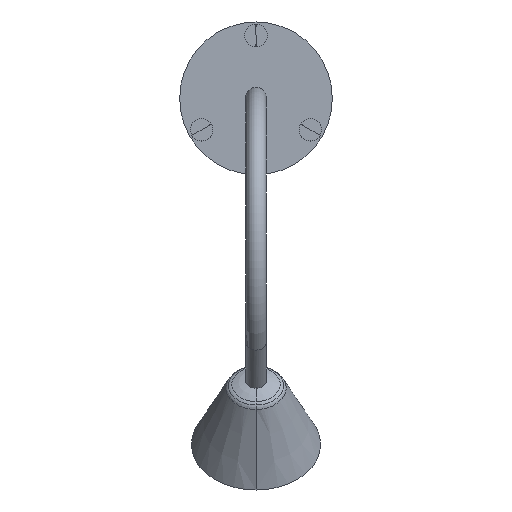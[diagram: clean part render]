
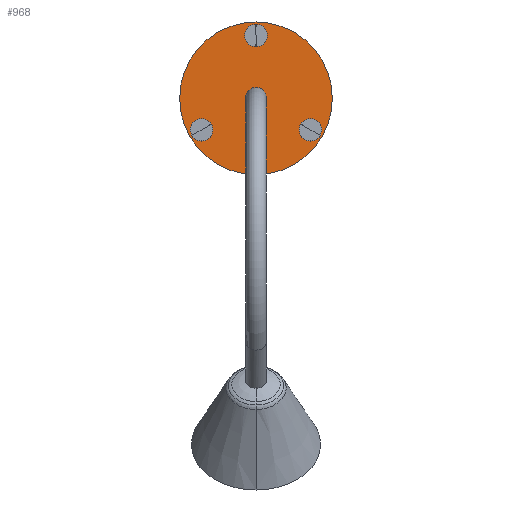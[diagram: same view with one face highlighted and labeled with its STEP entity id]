
A CAD part, top view. The second image highlights one B-rep face of the part: STEP entity #968.
In plain terms, the highlighted planar face has unit normal (0, 0, 1).
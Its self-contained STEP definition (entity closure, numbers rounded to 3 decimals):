
#28=FACE_BOUND('',#255,.T.);
#29=FACE_BOUND('',#256,.T.);
#30=FACE_BOUND('',#257,.T.);
#179=FACE_OUTER_BOUND('',#254,.T.);
#254=EDGE_LOOP('',(#863,#864));
#255=EDGE_LOOP('',(#865,#866));
#256=EDGE_LOOP('',(#867,#868));
#257=EDGE_LOOP('',(#869,#870));
#302=CIRCLE('',#1079,6.234);
#303=CIRCLE('',#1081,6.234);
#308=CIRCLE('',#1089,6.234);
#309=CIRCLE('',#1091,6.234);
#314=CIRCLE('',#1099,6.234);
#315=CIRCLE('',#1101,6.234);
#316=CIRCLE('',#1103,42.5);
#318=CIRCLE('',#1106,42.5);
#475=VERTEX_POINT('',#1779);
#476=VERTEX_POINT('',#1781);
#481=VERTEX_POINT('',#1799);
#482=VERTEX_POINT('',#1801);
#487=VERTEX_POINT('',#1819);
#488=VERTEX_POINT('',#1821);
#489=VERTEX_POINT('',#1827);
#490=VERTEX_POINT('',#1828);
#590=EDGE_CURVE('',#476,#475,#302,.T.);
#592=EDGE_CURVE('',#475,#476,#303,.T.);
#600=EDGE_CURVE('',#482,#481,#308,.T.);
#602=EDGE_CURVE('',#481,#482,#309,.T.);
#610=EDGE_CURVE('',#488,#487,#314,.T.);
#612=EDGE_CURVE('',#487,#488,#315,.T.);
#613=EDGE_CURVE('',#489,#490,#316,.T.);
#617=EDGE_CURVE('',#490,#489,#318,.T.);
#863=ORIENTED_EDGE('',*,*,#617,.T.);
#864=ORIENTED_EDGE('',*,*,#613,.T.);
#865=ORIENTED_EDGE('',*,*,#612,.T.);
#866=ORIENTED_EDGE('',*,*,#610,.T.);
#867=ORIENTED_EDGE('',*,*,#602,.T.);
#868=ORIENTED_EDGE('',*,*,#600,.T.);
#869=ORIENTED_EDGE('',*,*,#592,.T.);
#870=ORIENTED_EDGE('',*,*,#590,.T.);
#896=PLANE('',#1109);
#968=ADVANCED_FACE('',(#179,#28,#29,#30),#896,.T.);
#1079=AXIS2_PLACEMENT_3D('',#1782,#1357,#1358);
#1081=AXIS2_PLACEMENT_3D('',#1785,#1362,#1363);
#1089=AXIS2_PLACEMENT_3D('',#1802,#1381,#1382);
#1091=AXIS2_PLACEMENT_3D('',#1805,#1386,#1387);
#1099=AXIS2_PLACEMENT_3D('',#1822,#1405,#1406);
#1101=AXIS2_PLACEMENT_3D('',#1825,#1410,#1411);
#1103=AXIS2_PLACEMENT_3D('',#1829,#1414,#1415);
#1106=AXIS2_PLACEMENT_3D('',#1836,#1422,#1423);
#1109=AXIS2_PLACEMENT_3D('',#1839,#1428,#1429);
#1357=DIRECTION('center_axis',(0.,0.,-1.));
#1358=DIRECTION('ref_axis',(0.995,-0.105,0.));
#1362=DIRECTION('center_axis',(0.,0.,-1.));
#1363=DIRECTION('ref_axis',(0.995,-0.105,0.));
#1381=DIRECTION('center_axis',(0.,0.,-1.));
#1382=DIRECTION('ref_axis',(-0.407,0.914,0.));
#1386=DIRECTION('center_axis',(0.,0.,-1.));
#1387=DIRECTION('ref_axis',(-0.407,0.914,0.));
#1405=DIRECTION('center_axis',(0.,0.,-1.));
#1406=DIRECTION('ref_axis',(-0.588,-0.809,0.));
#1410=DIRECTION('center_axis',(0.,0.,-1.));
#1411=DIRECTION('ref_axis',(-0.588,-0.809,0.));
#1414=DIRECTION('center_axis',(0.,0.,1.));
#1415=DIRECTION('ref_axis',(1.,0.,0.));
#1422=DIRECTION('center_axis',(0.,0.,1.));
#1423=DIRECTION('ref_axis',(1.,0.,0.));
#1428=DIRECTION('center_axis',(0.,0.,1.));
#1429=DIRECTION('ref_axis',(0.,1.,0.));
#1779=CARTESIAN_POINT('',(-24.907,-14.38,4.));
#1781=CARTESIAN_POINT('',(-35.705,-20.614,4.));
#1782=CARTESIAN_POINT('Origin',(-30.306,-17.497,4.));
#1785=CARTESIAN_POINT('Origin',(-30.306,-17.497,4.));
#1799=CARTESIAN_POINT('',(24.907,-14.38,4.));
#1801=CARTESIAN_POINT('',(35.705,-20.614,4.));
#1802=CARTESIAN_POINT('Origin',(30.306,-17.497,4.));
#1805=CARTESIAN_POINT('Origin',(30.306,-17.497,4.));
#1819=CARTESIAN_POINT('',(0.,28.76,4.));
#1821=CARTESIAN_POINT('',(0.,41.229,4.));
#1822=CARTESIAN_POINT('Origin',(0.,34.994,4.));
#1825=CARTESIAN_POINT('Origin',(0.,34.994,4.));
#1827=CARTESIAN_POINT('',(42.5,0.,4.));
#1828=CARTESIAN_POINT('',(-42.5,0.,4.));
#1829=CARTESIAN_POINT('Origin',(0.,0.,4.));
#1836=CARTESIAN_POINT('Origin',(0.,0.,4.));
#1839=CARTESIAN_POINT('Origin',(42.5,0.,4.));
